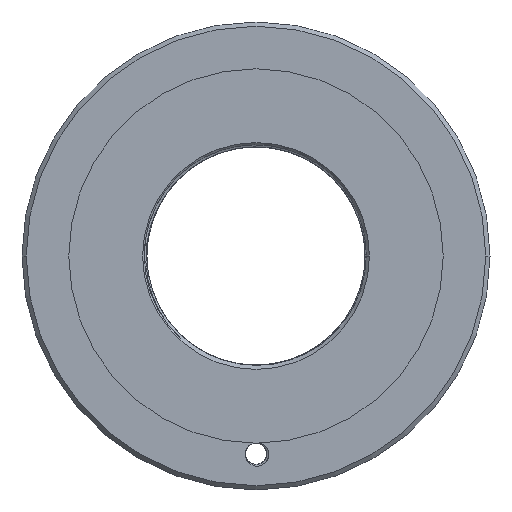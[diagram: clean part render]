
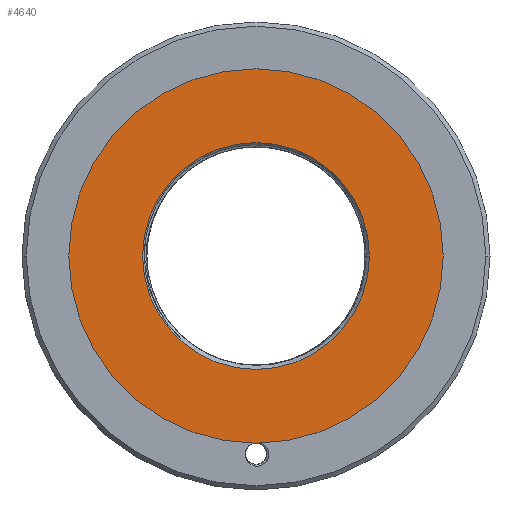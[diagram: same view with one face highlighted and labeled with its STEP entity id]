
A CAD part, front view. The second image highlights one B-rep face of the part: STEP entity #4640.
In plain terms, the highlighted planar face has unit normal (0, -1, 0).
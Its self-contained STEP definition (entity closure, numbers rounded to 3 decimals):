
#1=CARTESIAN_POINT('',(-115.653,-5.366,82.418));
#2=DIRECTION('',(0.,1.,0.));
#3=DIRECTION('',(1.,0.,0.));
#4=AXIS2_PLACEMENT_3D('',#1,#2,#3);
#6=CARTESIAN_POINT('',(-115.653,-5.366,82.418));
#7=DIRECTION('',(0.,1.,0.));
#8=DIRECTION('',(-1.,0.,0.));
#9=AXIS2_PLACEMENT_3D('',#6,#7,#8);
#11=CARTESIAN_POINT('',(-115.653,-5.366,82.418));
#12=DIRECTION('',(0.,-1.,0.));
#13=DIRECTION('',(0.,0.,1.));
#14=AXIS2_PLACEMENT_3D('',#11,#12,#13);
#16=CARTESIAN_POINT('',(-115.653,-5.366,82.418));
#17=DIRECTION('',(0.,-1.,0.));
#18=DIRECTION('',(0.,0.,-1.));
#19=AXIS2_PLACEMENT_3D('',#16,#17,#18);
#4531=CARTESIAN_POINT('',(-115.653,-5.366,
104.418));
#4532=CARTESIAN_POINT('',(-115.653,-5.366,
60.418));
#4533=VERTEX_POINT('',#4531);
#4534=VERTEX_POINT('',#4532);
#4543=CARTESIAN_POINT('',(-102.326,-5.366,
82.418));
#4544=CARTESIAN_POINT('',(-128.98,-5.366,
82.418));
#4545=VERTEX_POINT('',#4543);
#4546=VERTEX_POINT('',#4544);
#4623=CARTESIAN_POINT('',(0.,-5.366,0.));
#4624=DIRECTION('',(0.,-1.,0.));
#4625=DIRECTION('',(1.,0.,0.));
#4626=AXIS2_PLACEMENT_3D('',#4623,#4624,#4625);
#4627=PLANE('',#4626);
#4629=ORIENTED_EDGE('',*,*,#4628,.F.);
#4631=ORIENTED_EDGE('',*,*,#4630,.F.);
#4632=EDGE_LOOP('',(#4629,#4631));
#4633=FACE_OUTER_BOUND('',#4632,.F.);
#4635=ORIENTED_EDGE('',*,*,#4634,.F.);
#4637=ORIENTED_EDGE('',*,*,#4636,.F.);
#4638=EDGE_LOOP('',(#4635,#4637));
#4639=FACE_BOUND('',#4638,.F.);
#4640=ADVANCED_FACE('',(#4633,#4639),#4627,.T.);
#5=CIRCLE('',#4,13.327);
#10=CIRCLE('',#9,13.327);
#15=CIRCLE('',#14,22.);
#20=CIRCLE('',#19,22.);
#4628=EDGE_CURVE('',#4533,#4534,#15,.T.);
#4630=EDGE_CURVE('',#4534,#4533,#20,.T.);
#4634=EDGE_CURVE('',#4545,#4546,#5,.T.);
#4636=EDGE_CURVE('',#4546,#4545,#10,.T.);
